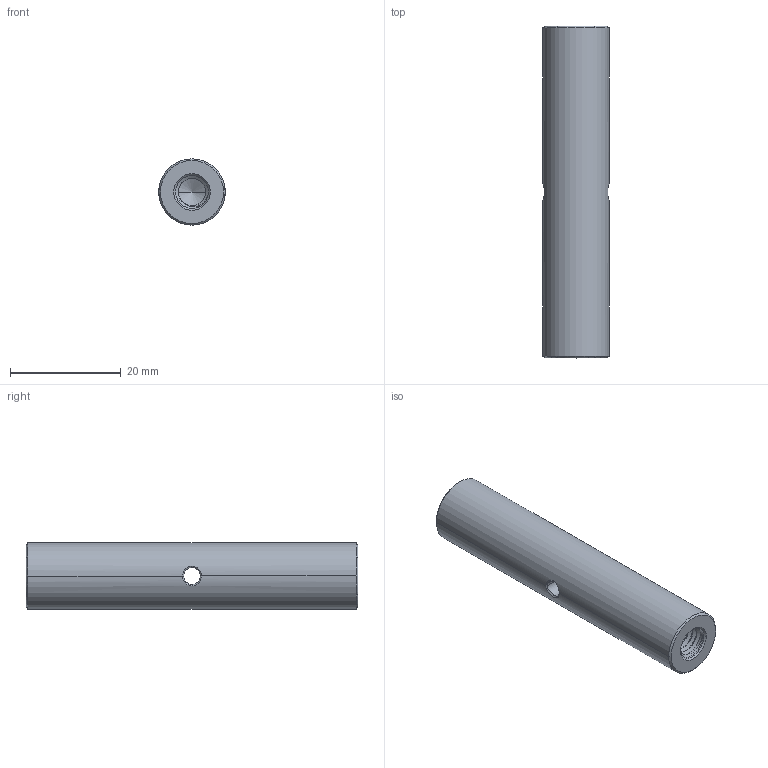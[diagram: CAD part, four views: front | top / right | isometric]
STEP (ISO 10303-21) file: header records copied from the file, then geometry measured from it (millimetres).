
FILE_DESCRIPTION((''),'2;1');
FILE_NAME('PCA6-S1','2020-12-11T',('Administrator'),(''),'CREO PARAMETRIC BY PTC INC, 2015290','CREO PARAMETRIC BY PTC INC, 2015290','');
FILE_SCHEMA(('CONFIG_CONTROL_DESIGN'));
Length unit declared in the file: millimetre
Products named in the file (1): PCA6-S1
Bounding box: 12 x 60 x 12 mm (x, y, z)
Volume: 6392 mm3; surface area: 2916.5 mm2
Topology: 1 solids, 1 shells, 76 faces, 204 edges, 126 vertices
Faces by surface type: cylinder 39, bspline 22, cone 12, plane 3
Entity records: 5573 total; most frequent: CARTESIAN_POINT 3920, ORIENTED_EDGE 400, DIRECTION 224, EDGE_CURVE 200, VERTEX_POINT 126, B_SPLINE_CURVE_WITH_KNOTS 105, EDGE_LOOP 78, FACE_OUTER_BOUND 76
